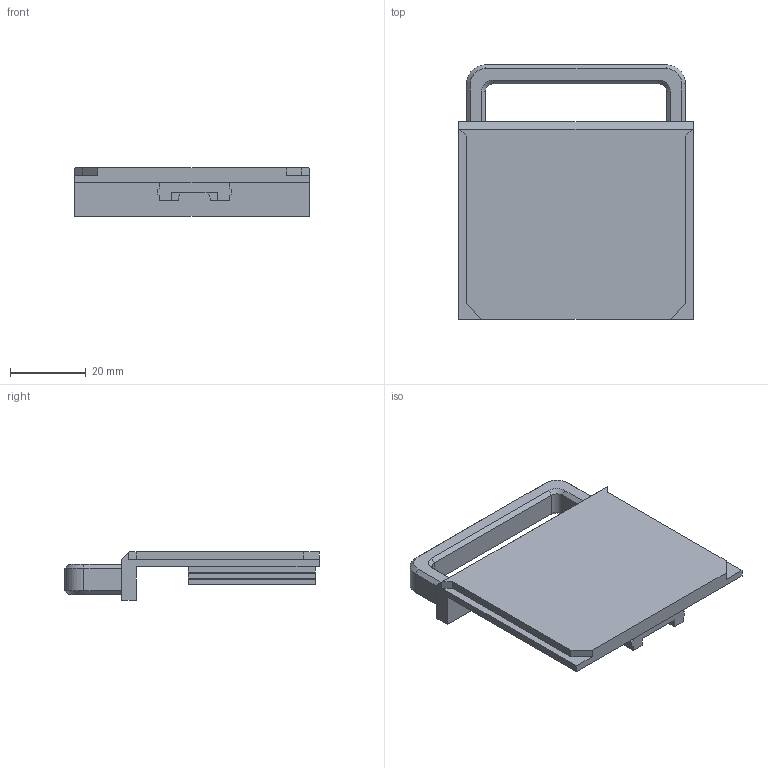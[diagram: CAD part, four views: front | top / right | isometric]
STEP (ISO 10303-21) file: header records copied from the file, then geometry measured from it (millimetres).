
FILE_DESCRIPTION(/* description */ ('STEP AP242','CAx-IF Rec.Pracs.---Representation and Presentation of Product Manufacturing Information (PMI)---4.0---2014-10-13','CAx-IF Rec.Pracs.---3D Tessellated Geometry---0.4---2014-09-14','2;1'),/* implementation_level */ '2;1');
FILE_NAME(/* name */ '687e6d81f344454910d48820',/* time_stamp */ '2025-07-21T16:40:35Z',/* author */ (''),/* organization */ (''),/* preprocessor_version */ 'ST-DEVELOPER v20',/* originating_system */ 'ONSHAPE BY PTC INC, 1.201',/* authorisation */ ' ');
FILE_SCHEMA (('AP242_MANAGED_MODEL_BASED_3D_ENGINEERING_MIM_LF { 1 0 10303 442 1 1 4 }'));
Length unit declared in the file: metre
Products named in the file (1): Pi 5 Eject 2
Bounding box: 61.7 x 67 x 12.85 mm (x, y, z)
Volume: 18404.3 mm3; surface area: 10923.5 mm2
Topology: 1 solids, 1 shells, 388 faces, 1099 edges, 727 vertices
Faces by surface type: cylinder 180, plane 154, bspline 46, cone 8
Entity records: 12866 total; most frequent: CARTESIAN_POINT 2721, ORIENTED_EDGE 2198, DIRECTION 2062, EDGE_CURVE 1099, VERTEX_POINT 727, AXIS2_PLACEMENT_3D 712, LINE 638, VECTOR 638
